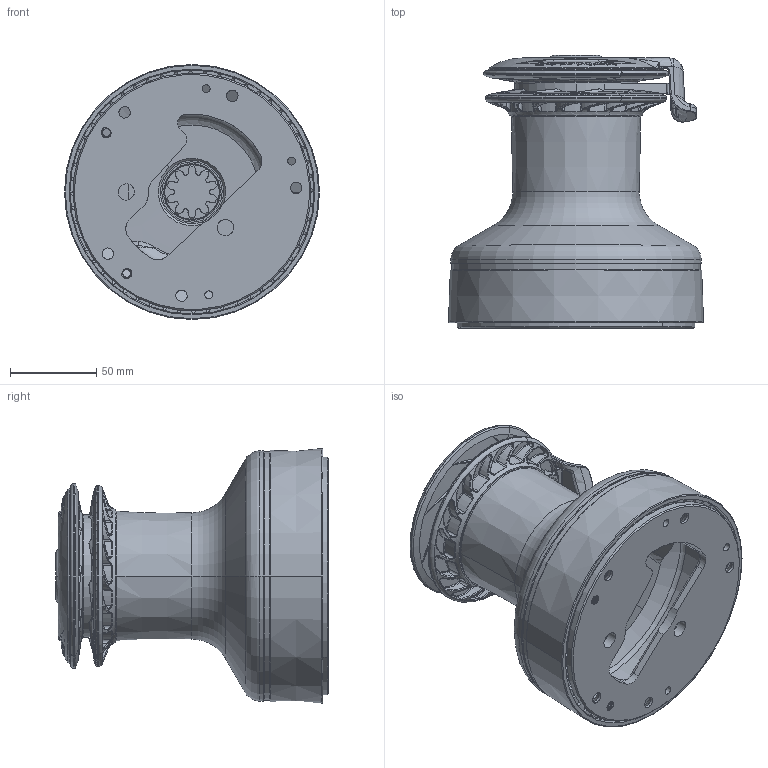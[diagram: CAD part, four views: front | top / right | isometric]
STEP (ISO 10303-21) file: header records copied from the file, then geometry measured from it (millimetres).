
FILE_DESCRIPTION((''),'2;1');
FILE_NAME('X_OEM_40_01_SW0001','2010-02-01T',('RFields'),(''),'PRO/ENGINEER BY PARAMETRIC TECHNOLOGY CORPORATION, 2007030','PRO/ENGINEER BY PARAMETRIC TECHNOLOGY CORPORATION, 2007030','');
FILE_SCHEMA(('CONFIG_CONTROL_DESIGN'));
Length unit declared in the file: millimetre
Products named in the file (1): X_OEM_40_01_SW0001
Bounding box: 147.96 x 158.3 x 147.96 mm (x, y, z)
Volume: 703136.4 mm3; surface area: 276131 mm2
Topology: 2 solids, 2 shells, 4707 faces, 12861 edges, 8241 vertices
Faces by surface type: plane 2264, extrusion 589, bspline 528, cone 497, cylinder 434, torus 389, sphere 6
Entity records: 185984 total; most frequent: CARTESIAN_POINT 76523, ORIENTED_EDGE 25702, DIRECTION 18294, EDGE_CURVE 12851, VERTEX_POINT 8241, AXIS2_PLACEMENT_3D 6143, VECTOR 6008, B_SPLINE_CURVE_WITH_KNOTS 5468
